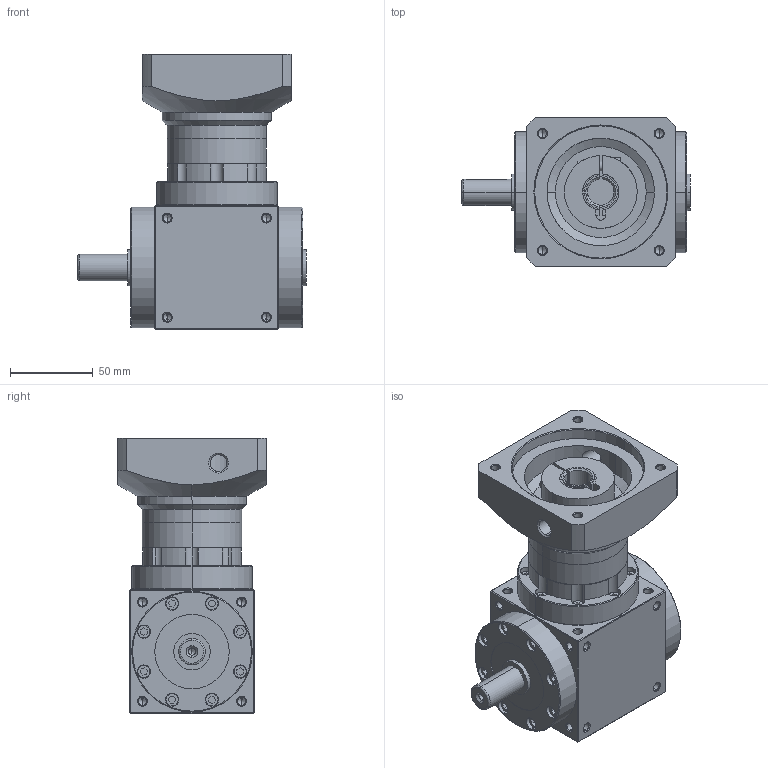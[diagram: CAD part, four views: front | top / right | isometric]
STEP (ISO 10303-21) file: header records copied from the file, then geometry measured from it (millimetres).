
FILE_DESCRIPTION (( 'STEP AP203' ), '1' );
FILE_NAME ('AT075-FL1-L2-16-80-100M6.STEP', '2025-11-27T09:38:33', ( 'Windows User' ), ( 'P R C' ), 'SwSTEP 2.0', 'SolidWorks 2016', '' );
FILE_SCHEMA (( 'CONFIG_CONTROL_DESIGN' ));
Length unit declared in the file: millimetre
Products named in the file (7): AT75FL1-转角箱体-批量-左-单轴输出; AT75FL1-怀堤楊擘-蠶講; AT75FL1-单级齿圈; 输入胀套-22; AT75FL1-输入法兰-F-80-M6-100; 输入轴套-19-16; AT075-FL1-L2-16-80-100M6
Assembly tree (6 placements, depth 2):
  AT075-FL1-L2-16-80-100M6
    AT75FL1-转角箱体-批量-左-单轴输出
    AT75FL1-怀堤楊擘-蠶講
    AT75FL1-单级齿圈
    输入胀套-22
    AT75FL1-输入法兰-F-80-M6-100
    输入轴套-19-16
Bounding box: 138 x 90 x 166.5 mm (x, y, z)
Volume: 650700.5 mm3; surface area: 150360.3 mm2
Topology: 6 solids, 22 shells, 1638 faces, 4127 edges, 2587 vertices
Faces by surface type: plane 792, cylinder 382, cone 296, bspline 168
Entity records: 56276 total; most frequent: CARTESIAN_POINT 17799, ORIENTED_EDGE 8018, DIRECTION 7325, EDGE_CURVE 4009, VERTEX_POINT 2587, VECTOR 2567, LINE 2567, AXIS2_PLACEMENT_3D 2379
